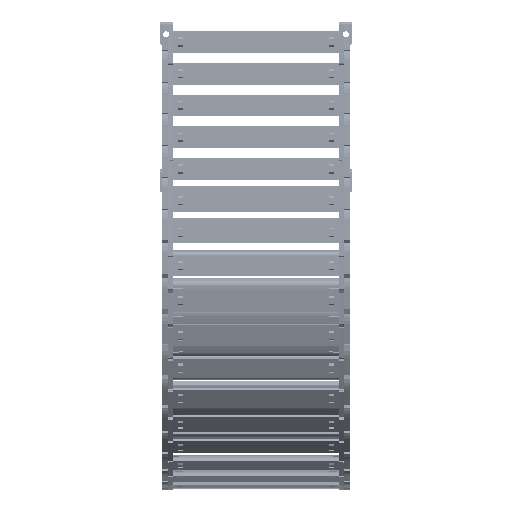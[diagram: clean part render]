
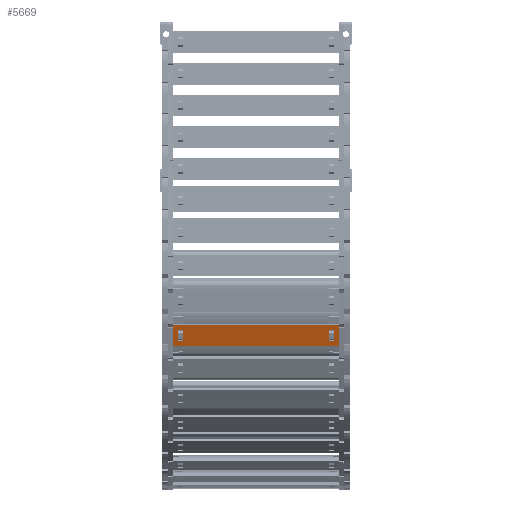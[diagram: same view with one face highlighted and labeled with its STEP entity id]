
A CAD part, left-side view. The second image highlights one B-rep face of the part: STEP entity #5669.
In plain terms, the highlighted planar face has unit normal (-0.935, 0, -0.353) as drawn and (0, 1, 0) by its records, which use the part's own axes.
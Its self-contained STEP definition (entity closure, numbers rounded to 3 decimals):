
#5089=DIRECTION('',(0.,0.,1.));
#5090=VECTOR('',#5089,15.8);
#5091=CARTESIAN_POINT('',(105.74,1.5,-7.9));
#5092=LINE('',#5091,#5090);
#5093=DIRECTION('',(-1.,0.,0.));
#5094=VECTOR('',#5093,120.5);
#5095=CARTESIAN_POINT('',(105.74,1.5,7.9));
#5096=LINE('',#5095,#5094);
#5097=DIRECTION('',(0.,0.,-1.));
#5098=VECTOR('',#5097,15.8);
#5099=CARTESIAN_POINT('',(-14.76,1.5,7.9));
#5100=LINE('',#5099,#5098);
#5101=DIRECTION('',(1.,0.,0.));
#5102=VECTOR('',#5101,3.648);
#5103=CARTESIAN_POINT('',(98.122,1.5,4.075));
#5104=LINE('',#5103,#5102);
#5105=DIRECTION('',(0.,0.,-1.));
#5106=VECTOR('',#5105,8.15);
#5107=CARTESIAN_POINT('',(101.77,1.5,4.075));
#5108=LINE('',#5107,#5106);
#5109=DIRECTION('',(-1.,0.,0.));
#5110=VECTOR('',#5109,3.648);
#5111=CARTESIAN_POINT('',(101.77,1.5,-4.075));
#5112=LINE('',#5111,#5110);
#5113=DIRECTION('',(0.,0.,-1.));
#5114=VECTOR('',#5113,8.15);
#5115=CARTESIAN_POINT('',(-7.142,1.5,4.075));
#5116=LINE('',#5115,#5114);
#5117=DIRECTION('',(-1.,0.,0.));
#5118=VECTOR('',#5117,3.648);
#5119=CARTESIAN_POINT('',(-7.142,1.5,-4.075));
#5120=LINE('',#5119,#5118);
#5121=DIRECTION('',(0.,0.,1.));
#5122=VECTOR('',#5121,8.15);
#5123=CARTESIAN_POINT('',(-10.79,1.5,-4.075));
#5124=LINE('',#5123,#5122);
#5125=DIRECTION('',(1.,0.,0.));
#5126=VECTOR('',#5125,3.648);
#5127=CARTESIAN_POINT('',(-10.79,1.5,4.075));
#5128=LINE('',#5127,#5126);
#5133=DIRECTION('',(-1.,0.,0.));
#5134=VECTOR('',#5133,120.5);
#5135=CARTESIAN_POINT('',(105.74,1.5,-7.9));
#5136=LINE('',#5135,#5134);
#5254=DIRECTION('',(0.,0.,-1.));
#5255=VECTOR('',#5254,8.15);
#5256=CARTESIAN_POINT('',(98.122,1.5,4.075));
#5257=LINE('',#5256,#5255);
#5439=CARTESIAN_POINT('',(101.77,1.5,4.075));
#5440=VERTEX_POINT('',#5439);
#5441=CARTESIAN_POINT('',(98.122,1.5,4.075));
#5442=VERTEX_POINT('',#5441);
#5483=CARTESIAN_POINT('',(98.122,1.5,-4.075));
#5484=VERTEX_POINT('',#5483);
#5485=CARTESIAN_POINT('',(101.77,1.5,-4.075));
#5486=VERTEX_POINT('',#5485);
#5487=CARTESIAN_POINT('',(105.74,1.5,7.9));
#5489=VERTEX_POINT('',#5487);
#5491=CARTESIAN_POINT('',(105.74,1.5,-7.9));
#5492=VERTEX_POINT('',#5491);
#5515=CARTESIAN_POINT('',(-7.142,1.5,4.075));
#5516=CARTESIAN_POINT('',(-7.142,1.5,-4.075));
#5517=VERTEX_POINT('',#5515);
#5518=VERTEX_POINT('',#5516);
#5519=CARTESIAN_POINT('',(-10.79,1.5,-4.075));
#5520=VERTEX_POINT('',#5519);
#5521=CARTESIAN_POINT('',(-10.79,1.5,4.075));
#5522=VERTEX_POINT('',#5521);
#5523=CARTESIAN_POINT('',(-14.76,1.5,7.9));
#5524=VERTEX_POINT('',#5523);
#5527=CARTESIAN_POINT('',(-14.76,1.5,-7.9));
#5528=VERTEX_POINT('',#5527);
#5638=CARTESIAN_POINT('',(137.48,1.5,10.061));
#5639=DIRECTION('',(0.,-1.,0.));
#5640=DIRECTION('',(0.,0.,-1.));
#5641=AXIS2_PLACEMENT_3D('',#5638,#5639,#5640);
#5642=PLANE('',#5641);
#5643=ORIENTED_EDGE('',*,*,#5577,.T.);
#5644=ORIENTED_EDGE('',*,*,#5603,.T.);
#5645=ORIENTED_EDGE('',*,*,#5616,.T.);
#5647=ORIENTED_EDGE('',*,*,#5646,.F.);
#5648=EDGE_LOOP('',(#5643,#5644,#5645,#5647));
#5649=FACE_OUTER_BOUND('',#5648,.F.);
#5651=ORIENTED_EDGE('',*,*,#5650,.F.);
#5652=ORIENTED_EDGE('',*,*,#5540,.T.);
#5654=ORIENTED_EDGE('',*,*,#5653,.T.);
#5656=ORIENTED_EDGE('',*,*,#5655,.T.);
#5657=EDGE_LOOP('',(#5651,#5652,#5654,#5656));
#5658=FACE_BOUND('',#5657,.F.);
#5660=ORIENTED_EDGE('',*,*,#5659,.T.);
#5662=ORIENTED_EDGE('',*,*,#5661,.T.);
#5664=ORIENTED_EDGE('',*,*,#5663,.T.);
#5666=ORIENTED_EDGE('',*,*,#5665,.T.);
#5667=EDGE_LOOP('',(#5660,#5662,#5664,#5666));
#5668=FACE_BOUND('',#5667,.F.);
#5669=ADVANCED_FACE('',(#5649,#5658,#5668),#5642,.F.);
#5540=EDGE_CURVE('',#5442,#5440,#5104,.T.);
#5577=EDGE_CURVE('',#5492,#5489,#5092,.T.);
#5603=EDGE_CURVE('',#5489,#5524,#5096,.T.);
#5616=EDGE_CURVE('',#5524,#5528,#5100,.T.);
#5646=EDGE_CURVE('',#5492,#5528,#5136,.T.);
#5650=EDGE_CURVE('',#5442,#5484,#5257,.T.);
#5653=EDGE_CURVE('',#5440,#5486,#5108,.T.);
#5655=EDGE_CURVE('',#5486,#5484,#5112,.T.);
#5659=EDGE_CURVE('',#5517,#5518,#5116,.T.);
#5661=EDGE_CURVE('',#5518,#5520,#5120,.T.);
#5663=EDGE_CURVE('',#5520,#5522,#5124,.T.);
#5665=EDGE_CURVE('',#5522,#5517,#5128,.T.);
